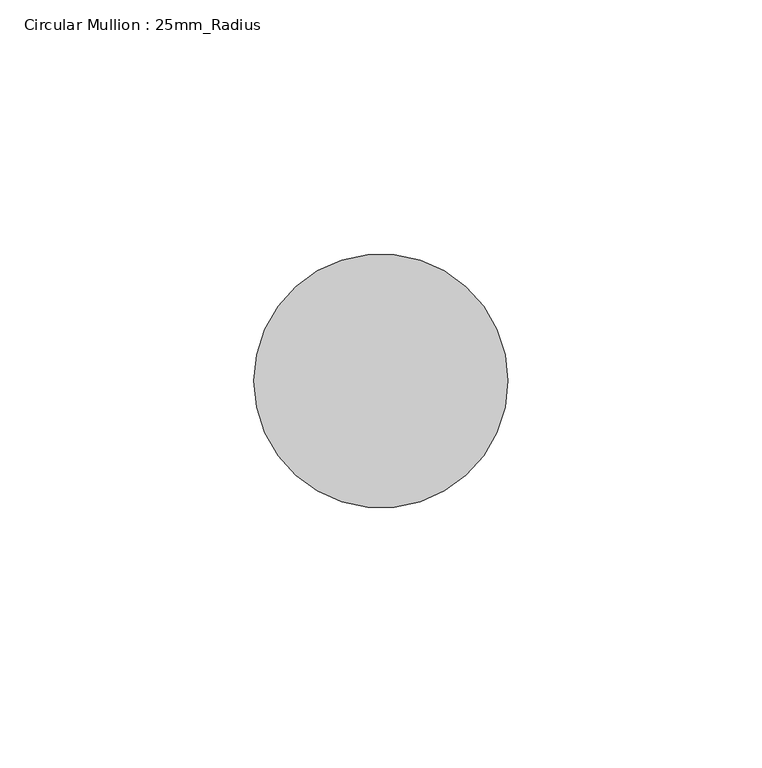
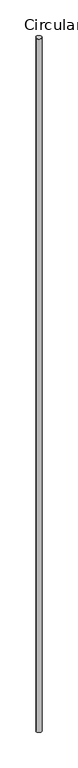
"""IFC4 building model written with IfcOpenShell, lengths in millimetres: member geometry, Circular Mullion : 25mm_Radius."""

from ifc_helpers import new_model, si_unit, point, frame, origin, origin_2d, place, context, project, spatial, circle_curve, trimmed, segment, composite_curve, outline, extrude, source, transform, mapped, element, save


def circular_mullion_25mm_radius_dcffa16b(model_context):
    return source(origin(), model_context, "Body", "SweptSolid", [
        extrude(outline(composite_curve([segment(trimmed(circle_curve(origin_2d(), 25.0), [point((25.0, 0.0))], [point((-25.0, 0.0))], False, "CARTESIAN"), True, "CONTINUOUS"), segment(trimmed(circle_curve(origin_2d(), 25.0), [point((-25.0, 0.0))], [point((25.0, 0.0))], False, "CARTESIAN"), True, "CONTINUOUS")], self_intersect=False)), frame((0.0, 0.0, -6838.9752444), z_axis=(0.0, 0.0, 1.0), x_axis=(1.0, 0.0, 0.0)), (0.0, 0.0, 1.0), 6838.9752444),
    ])


if __name__ == "__main__":
    model = new_model("IFC4")
    model_context = context("Model", 3, world=origin())
    ifc_project = project(units=[si_unit("LENGTHUNIT", "METRE", prefix="MILLI")], contexts=[model_context])
    site = spatial("IfcSite", under=ifc_project)
    building = spatial("IfcBuilding", under=site)
    placement = place(None, origin())
    circular_mullion_25mm_radius_shape = circular_mullion_25mm_radius_dcffa16b(model_context)
    element("IfcMember", 1, ObjectType="Circular Mullion : 25mm_Radius", at=placement, inside=building, context=model_context, shape_type="MappedRepresentation", body=[
        mapped(circular_mullion_25mm_radius_shape, transform((0.0, 0.0, 0.0), x_axis=(1.0, 0.0, 0.0), y_axis=(0.0, 1.0, 0.0), z_axis=(0.0, 0.0, 1.0))),
    ])
    save(model, "model.ifc")
